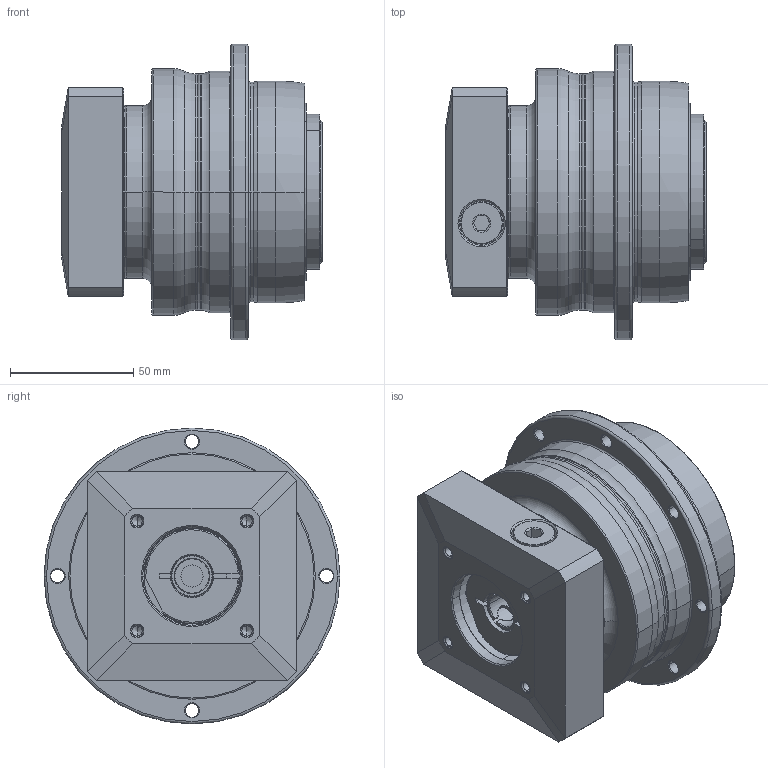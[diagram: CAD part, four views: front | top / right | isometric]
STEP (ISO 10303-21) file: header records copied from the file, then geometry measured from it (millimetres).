
FILE_DESCRIPTION((''),'2;1');
FILE_NAME('AH090_1ST_14-P0409310101_ASM','2016-07-26T',('d00435'),(''),'PRO/ENGINEER BY PARAMETRIC TECHNOLOGY CORPORATION, 2008410','PRO/ENGINEER BY PARAMETRIC TECHNOLOGY CORPORATION, 2008410','');
FILE_SCHEMA(('CONFIG_CONTROL_DESIGN'));
Length unit declared in the file: millimetre
Products named in the file (8): P0255300003; P0359300003; P1318300101; P0409310101; P0503300006; P0912301001; 21711412017; AH090_1ST_14-P0409310101_ASM
Assembly tree (7 placements, depth 2):
  AH090_1ST_14-P0409310101_ASM
    P0255300003
    P0359300003
    P1318300101
    P0409310101
    P0503300006
    P0912301001
    21711412017
Bounding box: 105.5 x 120 x 120 mm (x, y, z)
Volume: 629846 mm3; surface area: 130199.2 mm2
Topology: 8 solids, 32 shells, 581 faces, 1349 edges, 821 vertices
Faces by surface type: cylinder 242, cone 150, plane 115, torus 60, bspline 14
Entity records: 20880 total; most frequent: CARTESIAN_POINT 7293, DIRECTION 3105, ORIENTED_EDGE 2510, AXIS2_PLACEMENT_3D 1321, EDGE_CURVE 1303, VERTEX_POINT 821, CIRCLE 729, EDGE_LOOP 694
